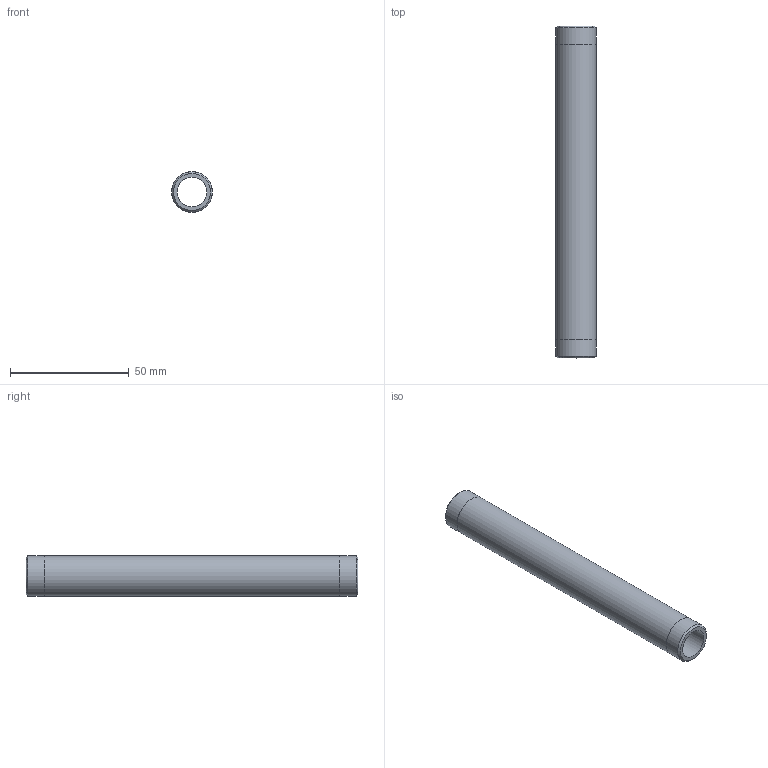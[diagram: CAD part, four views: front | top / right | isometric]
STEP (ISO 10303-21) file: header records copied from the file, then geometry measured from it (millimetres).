
FILE_DESCRIPTION(/* description */ (''),/* implementation_level */ '2;1');
FILE_NAME(/* name */ 'C:/Users/drich/Desktop/BPN38-5-1_2 v1.step',/* time_stamp */ '2020-01-03T15:22:08-06:00',/* author */ (''),/* organization */ (''),/* preprocessor_version */ 'ST-DEVELOPER v18',/* originating_system */ 'Autodesk Translation Framework v8.12.0.6',/* authorisation */ '');
FILE_SCHEMA (('AUTOMOTIVE_DESIGN { 1 0 10303 214 3 1 1 }'));
Length unit declared in the file: inch
Products named in the file (1): BPN38-5-1_2
Bounding box: 17.14 x 139.7 x 17.14 mm (x, y, z)
Volume: 14996.5 mm3; surface area: 13183.9 mm2
Topology: 1 solids, 1 shells, 10 faces, 24 edges, 18 vertices
Faces by surface type: cylinder 4, plane 4, cone 2
Full cylindrical faces by diameter (mm): 12.522 x1, 17.094 x2, 17.145 x1
Entity records: 360 total; most frequent: DIRECTION 64, CARTESIAN_POINT 53, ORIENTED_EDGE 48, AXIS2_PLACEMENT_3D 29, EDGE_CURVE 24, CIRCLE 18, VERTEX_POINT 18, EDGE_LOOP 14
